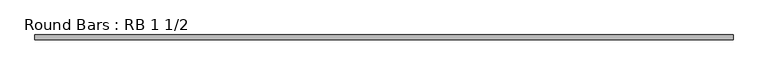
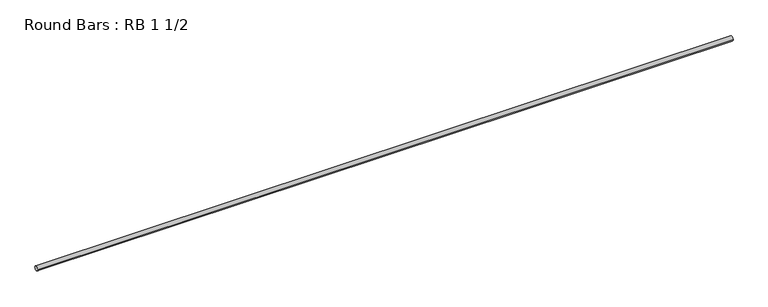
"""IFC4 building model written with IfcOpenShell, lengths in millimetres: member geometry, Round Bars : RB 1 1/2."""

from ifc_helpers import new_model, si_unit, point, frame, origin, origin_2d, place, context, project, spatial, circle_curve, trimmed, segment, composite_curve, outline, extrude, source, transform, mapped, element, save


def round_bars_rb_1_1_2_64320407(model_context):
    return source(origin(), model_context, "Body", "SweptSolid", [
        extrude(outline(composite_curve([segment(trimmed(circle_curve(origin_2d(), 19.05), [point((19.05, 0.0))], [point((-19.05, 0.0))], False, "CARTESIAN"), True, "CONTINUOUS"), segment(trimmed(circle_curve(origin_2d(), 19.05), [point((-19.05, 0.0))], [point((19.05, 0.0))], False, "CARTESIAN"), True, "CONTINUOUS")], self_intersect=False)), frame((-2836.8551663, 0.0, 0.0), z_axis=(1.0, 0.0, 0.0), x_axis=(0.0, 1.0, 0.0)), (0.0, 0.0, 1.0), 5673.7103326),
    ])


if __name__ == "__main__":
    model = new_model("IFC4")
    model_context = context("Model", 3, world=origin())
    ifc_project = project(units=[si_unit("LENGTHUNIT", "METRE", prefix="MILLI")], contexts=[model_context])
    site = spatial("IfcSite", under=ifc_project)
    building = spatial("IfcBuilding", under=site)
    placement = place(None, origin())
    round_bars_rb_1_1_2_shape = round_bars_rb_1_1_2_64320407(model_context)
    element("IfcMember", 1, ObjectType="Round Bars : RB 1 1/2", at=placement, inside=building, context=model_context, shape_type="MappedRepresentation", body=[
        mapped(round_bars_rb_1_1_2_shape, transform((0.0, 0.0, 0.0), x_axis=(1.0, 0.0, 0.0), y_axis=(0.0, 1.0, 0.0), z_axis=(0.0, 0.0, 1.0))),
    ])
    save(model, "model.ifc")
